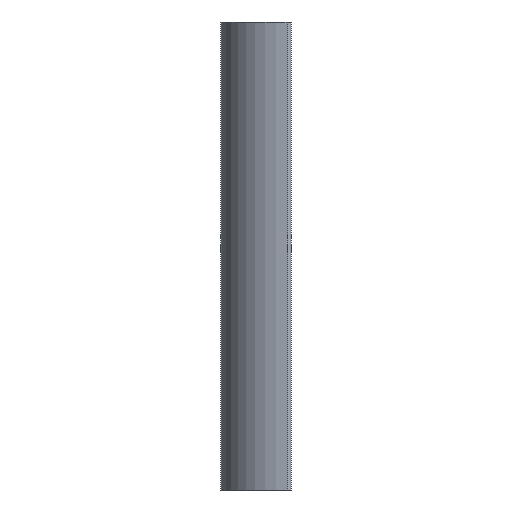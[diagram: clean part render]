
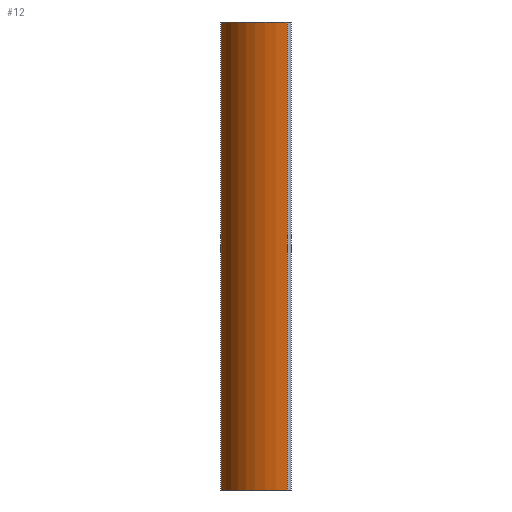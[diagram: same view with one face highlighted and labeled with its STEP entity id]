
A CAD part, left-side view. The second image highlights one B-rep face of the part: STEP entity #12.
In plain terms, the highlighted cylindrical face has radius 45.071 mm (diameter 90.142 mm), a partial arc.
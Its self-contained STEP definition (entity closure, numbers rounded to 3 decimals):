
#12 = ADVANCED_FACE ( 'NONE', ( #1775 ), #2045, .T. ) ;
#23 = DIRECTION ( 'NONE',  ( 0., 0., 1. ) ) ;
#334 = DIRECTION ( 'NONE',  ( 0., 0., -1. ) ) ;
#441 = EDGE_CURVE ( 'NONE', #5073, #5739, #2939, .T. ) ;
#488 = DIRECTION ( 'NONE',  ( 0., 0., 1. ) ) ;
#502 = CARTESIAN_POINT ( 'NONE',  ( 19.938, 22.461, 150. ) ) ;
#611 = CARTESIAN_POINT ( 'NONE',  ( 22.536, -22.536, -150. ) ) ;
#672 = DIRECTION ( 'NONE',  ( -1., 0., 0. ) ) ;
#884 = EDGE_CURVE ( 'NONE', #5739, #2877, #5089, .T. ) ;
#934 = CARTESIAN_POINT ( 'NONE',  ( -22.461, -19.938, 150. ) ) ;
#1090 = CARTESIAN_POINT ( 'NONE',  ( 22.536, -22.536, 150. ) ) ;
#1261 = DIRECTION ( 'NONE',  ( 0., 0., -1. ) ) ;
#1345 = CARTESIAN_POINT ( 'NONE',  ( 19.938, 22.461, -150. ) ) ;
#1680 = CIRCLE ( 'NONE', #4936, 45.071 ) ;
#1694 = LINE ( 'NONE', #502, #3633 ) ;
#1775 = FACE_OUTER_BOUND ( 'NONE', #4586, .T. ) ;
#1870 = CARTESIAN_POINT ( 'NONE',  ( 22.536, -22.536, 150. ) ) ;
#1930 = AXIS2_PLACEMENT_3D ( 'NONE', #1870, #1261, #672 ) ;
#2045 = CYLINDRICAL_SURFACE ( 'NONE', #1930, 45.071 ) ;
#2347 = ORIENTED_EDGE ( 'NONE', *, *, #4034, .T. ) ;
#2533 = ORIENTED_EDGE ( 'NONE', *, *, #441, .F. ) ;
#2877 = VERTEX_POINT ( 'NONE', #3944 ) ;
#2939 = CIRCLE ( 'NONE', #3926, 45.071 ) ;
#3229 = ORIENTED_EDGE ( 'NONE', *, *, #884, .F. ) ;
#3509 = ORIENTED_EDGE ( 'NONE', *, *, #4131, .T. ) ;
#3633 = VECTOR ( 'NONE', #5706, 1000. ) ;
#3641 = CARTESIAN_POINT ( 'NONE',  ( -22.461, -19.938, 150. ) ) ;
#3926 = AXIS2_PLACEMENT_3D ( 'NONE', #1090, #488, #5689 ) ;
#3944 = CARTESIAN_POINT ( 'NONE',  ( -22.461, -19.938, -150. ) ) ;
#4034 = EDGE_CURVE ( 'NONE', #4806, #2877, #1680, .T. ) ;
#4131 = EDGE_CURVE ( 'NONE', #5073, #4806, #1694, .T. ) ;
#4315 = VECTOR ( 'NONE', #334, 1000. ) ;
#4586 = EDGE_LOOP ( 'NONE', ( #2347, #3229, #2533, #3509 ) ) ;
#4806 = VERTEX_POINT ( 'NONE', #1345 ) ;
#4936 = AXIS2_PLACEMENT_3D ( 'NONE', #611, #23, #5211 ) ;
#5072 = CARTESIAN_POINT ( 'NONE',  ( 19.938, 22.461, 150. ) ) ;
#5073 = VERTEX_POINT ( 'NONE', #5072 ) ;
#5089 = LINE ( 'NONE', #934, #4315 ) ;
#5211 = DIRECTION ( 'NONE',  ( 1., 0., 0. ) ) ;
#5689 = DIRECTION ( 'NONE',  ( 1., 0., 0. ) ) ;
#5706 = DIRECTION ( 'NONE',  ( 0., 0., -1. ) ) ;
#5739 = VERTEX_POINT ( 'NONE', #3641 ) ;
